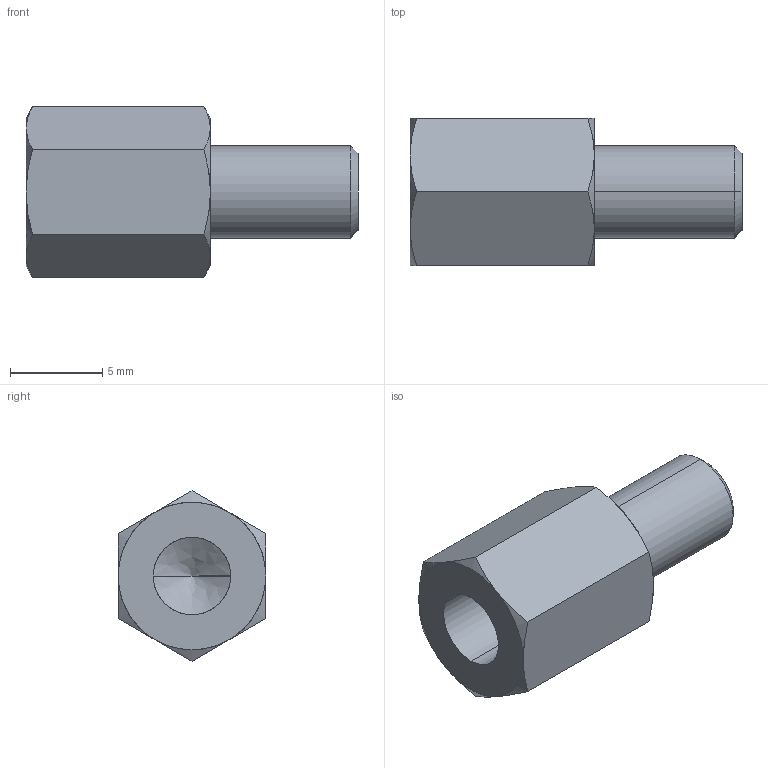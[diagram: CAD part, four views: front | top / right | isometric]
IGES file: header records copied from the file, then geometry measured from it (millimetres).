
Start section: SolidWorks IGES file using analytic representation for surfaces
Global section: file name: C:\Users\render1\Desktop\P0185_IGES\P0185.05-10.igs; native system: SolidWorks 2009; preprocessor: SolidWorks 2009; author: render1; date: 130627.112401; units: millimetre
Bounding box: 18 x 8 x 9.24 mm (x, y, z)
Surface area: 572.7 mm2 (no closed solid volume)
Topology: 0 solids, 0 shells, 29 faces, 324 edges, 322 vertices
Faces by surface type: revolution 20, bspline 9
